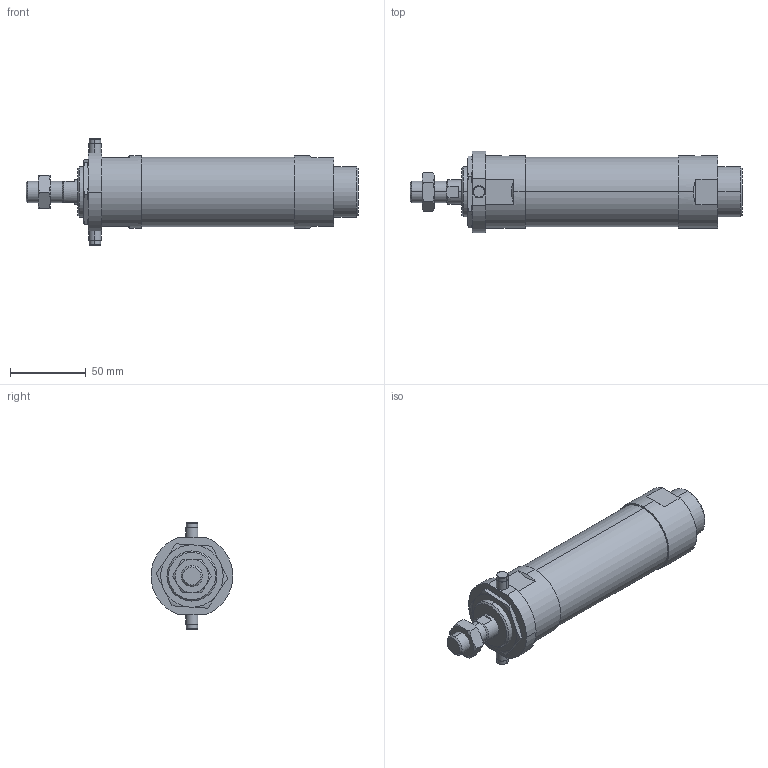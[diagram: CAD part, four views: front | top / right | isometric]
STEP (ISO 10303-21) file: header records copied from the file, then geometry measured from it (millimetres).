
FILE_DESCRIPTION (( 'STEP AP203' ), '1' );
FILE_NAME ('J#2-40-50-T.STEP', '2016-03-08T07:54:53', ( '' ), ( '' ), 'SwSTEP 2.0', 'SolidWorks 2014', '' );
FILE_SCHEMA (( 'CONFIG_CONTROL_DESIGN' ));
Length unit declared in the file: millimetre
Products named in the file (5): J#2-40-T; J#2-40-50; J#2-40-50-T
Assembly tree (4 placements, depth 2):
  J#2-40-50-T
    J#2-40-50
    (unnamed)
    (unnamed)
    J#2-40-T
Bounding box: 219 x 53.91 x 70 mm (x, y, z)
Volume: 308862.8 mm3; surface area: 41497.1 mm2
Topology: 4 solids, 4 shells, 121 faces, 279 edges, 171 vertices
Faces by surface type: plane 39, cylinder 35, torus 24, cone 23
Entity records: 4265 total; most frequent: CARTESIAN_POINT 1053, DIRECTION 576, ORIENTED_EDGE 550, EDGE_CURVE 275, AXIS2_PLACEMENT_3D 236, VERTEX_POINT 171, EDGE_LOOP 136, ADVANCED_FACE 121
